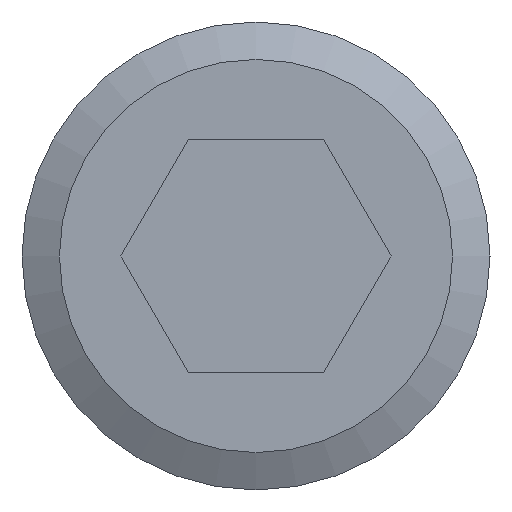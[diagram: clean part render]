
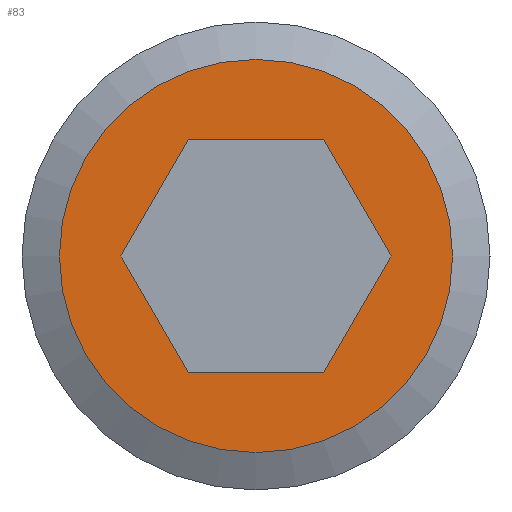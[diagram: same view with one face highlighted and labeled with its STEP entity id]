
A CAD part, left-side view. The second image highlights one B-rep face of the part: STEP entity #83.
In plain terms, the highlighted free-form (B-spline) face has degree [1, 1] with [3, 4] control points.
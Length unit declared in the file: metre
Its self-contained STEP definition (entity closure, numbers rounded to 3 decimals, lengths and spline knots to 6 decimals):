
#83 = ADVANCED_FACE( '', ( #110, #111 ), #112, .T. );
#110 = FACE_BOUND( '', #235, .T. );
#111 = FACE_OUTER_BOUND( '', #236, .T. );
#112 = B_SPLINE_SURFACE_WITH_KNOTS( '', 1, 1, ( ( #237, #238, #239, #240 ), ( #241, #242, #243, #244 ), ( #245, #246, #247, #248 ) ), .UNSPECIFIED., .F., .F., .F., ( 2, 1, 2 ), ( 2, 1, 1, 2 ), ( -0.409091, 0., 1. ), ( -0.287296, 0., 1., 1.287296 ), .UNSPECIFIED. );
#235 = EDGE_LOOP( '', ( #315, #316, #317, #318, #319, #320 ) );
#236 = EDGE_LOOP( '', ( #321 ) );
#237 = CARTESIAN_POINT( '', ( 5.759072, 3.781282, -0.03433 ) );
#238 = CARTESIAN_POINT( '', ( 5.759072, 3.781282, -0.036985 ) );
#239 = CARTESIAN_POINT( '', ( 5.759072, 3.781282, -0.046225 ) );
#240 = CARTESIAN_POINT( '', ( 5.759072, 3.781282, -0.048879 ) );
#241 = CARTESIAN_POINT( '', ( 5.759072, 3.785062, -0.03433 ) );
#242 = CARTESIAN_POINT( '', ( 5.759072, 3.785062, -0.036985 ) );
#243 = CARTESIAN_POINT( '', ( 5.759072, 3.785062, -0.046225 ) );
#244 = CARTESIAN_POINT( '', ( 5.759072, 3.785062, -0.048879 ) );
#245 = CARTESIAN_POINT( '', ( 5.759072, 3.794302, -0.03433 ) );
#246 = CARTESIAN_POINT( '', ( 5.759072, 3.794302, -0.036985 ) );
#247 = CARTESIAN_POINT( '', ( 5.759072, 3.794302, -0.046225 ) );
#248 = CARTESIAN_POINT( '', ( 5.759072, 3.794302, -0.048879 ) );
#315 = ORIENTED_EDGE( '', *, *, #357, .F. );
#316 = ORIENTED_EDGE( '', *, *, #358, .F. );
#317 = ORIENTED_EDGE( '', *, *, #359, .F. );
#318 = ORIENTED_EDGE( '', *, *, #350, .F. );
#319 = ORIENTED_EDGE( '', *, *, #348, .F. );
#320 = ORIENTED_EDGE( '', *, *, #360, .F. );
#321 = ORIENTED_EDGE( '', *, *, #356, .T. );
#348 = EDGE_CURVE( '', #378, #380, #381, .T. );
#350 = EDGE_CURVE( '', #380, #383, #384, .T. );
#356 = EDGE_CURVE( '', #394, #394, #395, .F. );
#357 = EDGE_CURVE( '', #396, #397, #398, .T. );
#358 = EDGE_CURVE( '', #399, #396, #400, .T. );
#359 = EDGE_CURVE( '', #383, #399, #401, .T. );
#360 = EDGE_CURVE( '', #397, #378, #402, .T. );
#378 = VERTEX_POINT( '', #434 );
#380 = VERTEX_POINT( '', #437 );
#381 = LINE( '', #438, #439 );
#383 = VERTEX_POINT( '', #442 );
#384 = LINE( '', #443, #444 );
#394 = VERTEX_POINT( '', #455 );
#395 = CIRCLE( '', #456, 0.0042 );
#396 = VERTEX_POINT( '', #457 );
#397 = VERTEX_POINT( '', #458 );
#398 = LINE( '', #459, #460 );
#399 = VERTEX_POINT( '', #461 );
#400 = LINE( '', #462, #463 );
#401 = LINE( '', #464, #465 );
#402 = LINE( '', #466, #467 );
#434 = CARTESIAN_POINT( '', ( 5.759072, 3.791125, -0.044105 ) );
#437 = CARTESIAN_POINT( '', ( 5.759072, 3.788239, -0.044105 ) );
#438 = CARTESIAN_POINT( '', ( 5.759072, 3.789682, -0.044105 ) );
#439 = VECTOR( '', #480, 1. );
#442 = CARTESIAN_POINT( '', ( 5.759072, 3.786795, -0.041605 ) );
#443 = CARTESIAN_POINT( '', ( 5.759072, 3.787517, -0.042855 ) );
#444 = VECTOR( '', #482, 1. );
#455 = CARTESIAN_POINT( '', ( 5.759072, 3.793882, -0.041605 ) );
#456 = AXIS2_PLACEMENT_3D( '', #496, #497, #498 );
#457 = CARTESIAN_POINT( '', ( 5.759072, 3.791125, -0.039105 ) );
#458 = CARTESIAN_POINT( '', ( 5.759072, 3.792569, -0.041605 ) );
#459 = CARTESIAN_POINT( '', ( 5.759072, 3.791847, -0.040355 ) );
#460 = VECTOR( '', #499, 1. );
#461 = CARTESIAN_POINT( '', ( 5.759072, 3.788239, -0.039105 ) );
#462 = CARTESIAN_POINT( '', ( 5.759072, 3.789682, -0.039105 ) );
#463 = VECTOR( '', #500, 1. );
#464 = CARTESIAN_POINT( '', ( 5.759072, 3.787517, -0.040355 ) );
#465 = VECTOR( '', #501, 1. );
#466 = CARTESIAN_POINT( '', ( 5.759072, 3.791847, -0.042855 ) );
#467 = VECTOR( '', #502, 1. );
#480 = DIRECTION( '', ( 0., -1., 0. ) );
#482 = DIRECTION( '', ( 0., -0.5, 0.866 ) );
#496 = CARTESIAN_POINT( '', ( 5.759072, 3.789682, -0.041605 ) );
#497 = DIRECTION( '', ( 1., 0., 0. ) );
#498 = DIRECTION( '', ( 0., 0., -1. ) );
#499 = DIRECTION( '', ( 0., 0.5, -0.866 ) );
#500 = DIRECTION( '', ( 0., 1., 0. ) );
#501 = DIRECTION( '', ( 0., 0.5, 0.866 ) );
#502 = DIRECTION( '', ( 0., -0.5, -0.866 ) );
